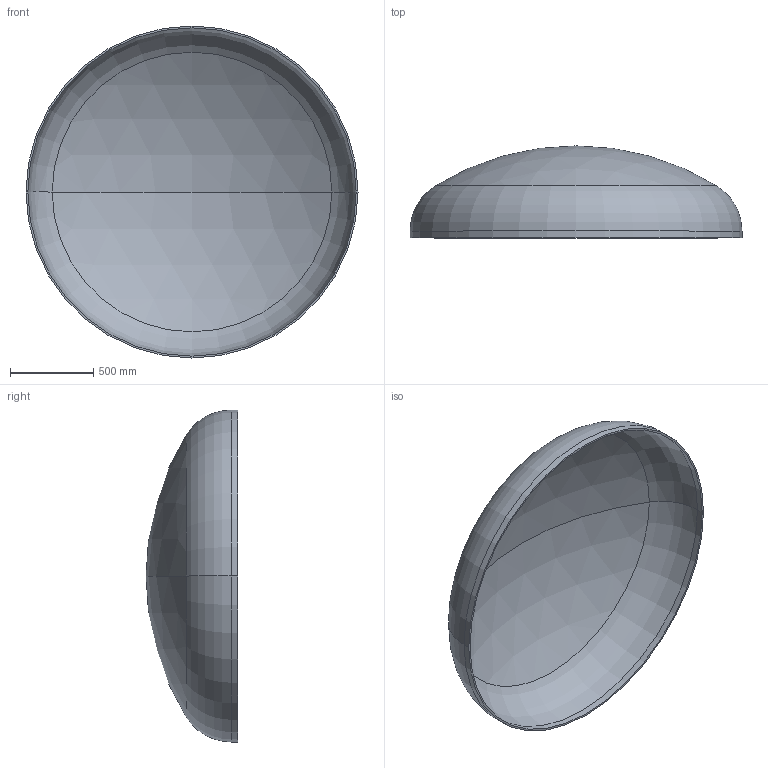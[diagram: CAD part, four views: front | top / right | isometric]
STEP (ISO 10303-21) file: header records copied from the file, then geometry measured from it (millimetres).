
FILE_DESCRIPTION (( 'STEP AP203' ), '1' );
FILE_NAME ('DIN 28013 Korbbogenform_-_Boden DIN 28013 - 2000 x 40 - I - s=11.step', '2016-07-01T13:35:59', ( '' ), ( '' ), 'SwSTEP 2.0', 'SolidWorks 2013', '' );
FILE_SCHEMA (( 'CONFIG_CONTROL_DESIGN' ));
Length unit declared in the file: millimetre
Products named in the file (1): DIN 28013 Korbbogenform_-_Boden DIN 28013 - 2000 x 40 - I - s=11
Bounding box: 2000 x 554.16 x 2000 mm (x, y, z)
Volume: 50325821.3 mm3; surface area: 9219134.1 mm2
Topology: 1 solids, 1 shells, 13 faces, 24 edges, 14 vertices
Faces by surface type: torus 4, cylinder 4, sphere 4, plane 1
Entity records: 407 total; most frequent: DIRECTION 72, CARTESIAN_POINT 52, ORIENTED_EDGE 48, AXIS2_PLACEMENT_3D 34, EDGE_CURVE 24, CIRCLE 20, EDGE_LOOP 14, VERTEX_POINT 14
